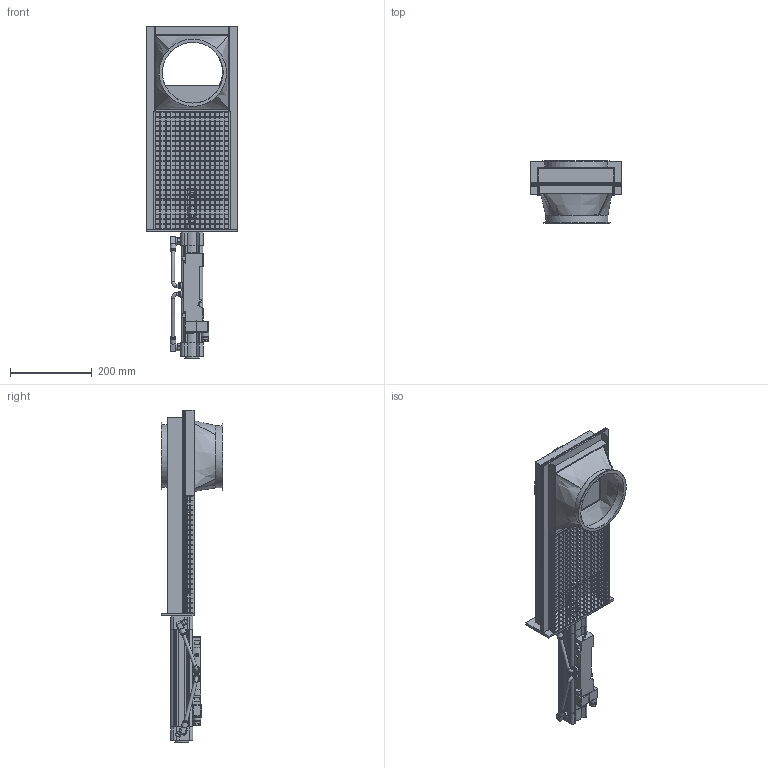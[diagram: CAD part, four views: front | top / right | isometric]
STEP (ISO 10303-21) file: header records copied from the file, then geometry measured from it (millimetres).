
FILE_DESCRIPTION((''),'2;1');
FILE_NAME('U:\Wolfgang\Marcel-3D\fertig\Kapitel 9\1521092.stp','2011-10-11T12:55:34',('iwienholt'),(''),'Autodesk Inventor 2010','Autodesk Inventor 2010','');
FILE_SCHEMA(('AUTOMOTIVE_DESIGN { 1 0 10303 214 1 1 1 1 }'));
Length unit declared in the file: millimetre
Products named in the file (22): 1521092; Deckel DN150; Boden DN150; Mittelteil DN150; Pneum.Schiebereinheit DN150; 532744_DNCB_40_200_PPV_A_6_0; 532744_DNCB_40_200_PPV_A_6_01; 532744_DNCB_40_200_PPV_A_6_02; 532744_DNCB_40_200_PPV_A_6_03; 537600_VUVB_S_B42_ZD_Q8_3AC1_6_0; 537600_VUVB_S_B42_ZD_Q8_3AC1_6_01; 537600_VUVB_S_B42_ZD_Q8_3AC1_6_02; 537600_VUVB_S_B42_ZD_Q8_3AC1_6_03; 4527_MSFG_24_42_50_60_6_0; 4527_MSFG_24_42_50_60_6_01; 4527_MSFG_24_42_50_60_6_02; 153414_QSRL_1_4_8_6_0; schlauch2; schlauch; 13570_CRSG_M12x125_6_0; Schieberplatte DN150; Lochblech DN150
Assembly tree (22 placements, depth 4):
  1521092
    Deckel DN150
    Boden DN150
    Mittelteil DN150
    Pneum.Schiebereinheit DN150
      532744_DNCB_40_200_PPV_A_6_0
        532744_DNCB_40_200_PPV_A_6_01
        532744_DNCB_40_200_PPV_A_6_02
        532744_DNCB_40_200_PPV_A_6_03
      537600_VUVB_S_B42_ZD_Q8_3AC1_6_0
        537600_VUVB_S_B42_ZD_Q8_3AC1_6_01
        537600_VUVB_S_B42_ZD_Q8_3AC1_6_02
        537600_VUVB_S_B42_ZD_Q8_3AC1_6_03
      4527_MSFG_24_42_50_60_6_0
        4527_MSFG_24_42_50_60_6_01
        4527_MSFG_24_42_50_60_6_02
      153414_QSRL_1_4_8_6_0  x2
      schlauch2
      schlauch
      13570_CRSG_M12x125_6_0
      Schieberplatte DN150
    Lochblech DN150
Bounding box: 225 x 152 x 814 mm (x, y, z)
Volume: 1937157.5 mm3; surface area: 1051776.4 mm2
Topology: 18 solids, 18 shells, 2793 faces, 8005 edges, 5279 vertices
Faces by surface type: plane 2171, cylinder 313, bspline 205, cone 98, torus 6
Full cylindrical faces by diameter (mm): 1 x3, 2.459 x1, 3 x2, 3.5 x1, 4 x1, 4.5 x1, 4.917 x8, 5 x2, 5.471 x2, 5.5 x1, 6 x17, 7.188 x1, 7.5 x4, 8 x9, 8.05 x1, 9 x1, 9.6 x2, 9.653 x1, 10.15 x2, 10.647 x1, 11.2 x2, 11.445 x2, 12 x4, 13.05 x2, 13.157 x2, 14 x6, 14.4 x4, 14.5 x2, 14.7 x6, 15.1 x2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
Entity records: 90890 total; most frequent: CARTESIAN_POINT 17694, ORIENTED_EDGE 15292, DIRECTION 13431, EDGE_CURVE 7646, VECTOR 6745, LINE 6745, VERTEX_POINT 5154, EDGE_LOOP 3938
